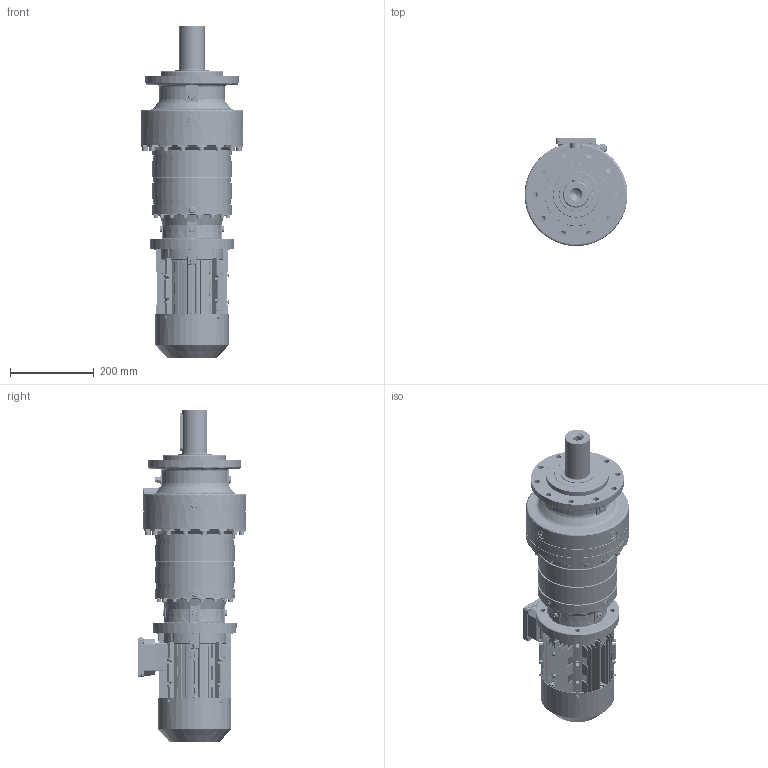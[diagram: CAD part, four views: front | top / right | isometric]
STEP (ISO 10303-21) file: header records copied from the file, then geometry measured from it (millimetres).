
FILE_DESCRIPTION (( 'STEP AP203' ), '1' );
FILE_NAME ('PVL-1504L-MX90S-4.STEP', '2019-05-13T09:36:46', ( '' ), ( '' ), 'SwSTEP 2.0', 'SolidWorks 2012', '' );
FILE_SCHEMA (( 'CONFIG_CONTROL_DESIGN' ));
Products named in the file (33): 1190B5_Varsayìlan; ML13A_Varsayìlan; P15_Varsayìlan; circlips for shaft--type b gb_GB_CONNECTING_PIECE_RINGS_CSB 20_2; IE3 90L cable glandsM16_2; IE3 90S  oil seal_2; cross recessed pan head screws gb_GB_CROSS_SCREWS_TYPE1 M5X10-10  H type-N_2; cross recessed pan head screws gb_GB_CROSS_SCREWS_TYPE1 M5X20-20  H type-N_2; IE3 90S connection board_2; hexagon head bolts-full thread gb_GB_FASTENER_BOLT_STBAB A M4X16-N_2; spring lock washers--normal type gb_GB_FASTENER_WASHER_SW 6_2; hexagon flange head tapping screws gb_GB_SQUARE_AND_HEXAGON_TYPE137 ST3.5X9.5 F-N_2; cross recessed pan head tapping screws gb_GB_CROSS_SCREWS_TYPE128 ST4.2X9.5 H C-N_2; hex nuts, style 1-grades ab gb_GB_FASTENER_NUT_SNAB1 M6-N_2; IE3 90S terminal box_2; IE3 90S terminal box cover_2; plain parallel keys_GB_CONNECTING_PIECE_KEYS_CSK 8X40_2; IE3 90S rotor_2; IE3 90S fan cover_2; deep groove ball bearings gb_Rolling bearings 6205 GB 276-94_2; IE3 90S fan_2; IE3 90S flangeB5; IE3 90S casing_2; PNL_1504L_0_0_A09_B5_ML13A_FL3A_0_0_0_0_0_0_0_0_0_0_0_M1; EK1504L_Varsayìlan; FL3A_Varsayìlan; PVL-1504L-MX90S-4; MX3-90S_B5; cross recessed pan head screws gb_GB_CROSS_SCREWS_TYPE1 M4X6-6  H type-N; hexagon socket head cap screws gb_GB_FASTENER_SCREWS_HSHCS M6X25-N_1; IE3 90S flange_2; hexagon socket head cap screws gb_GB_FASTENER_SCREWS_HSHCS M6X40-N; hexagon socket head cap screws gb_GB_FASTENER_SCREWS_HSHCS M6X30-N_2
Assembly tree (68 placements, depth 3):
  PVL-1504L-MX90S-4
    PNL_1504L_0_0_A09_B5_ML13A_FL3A_0_0_0_0_0_0_0_0_0_0_0_M1
      P15_Varsayìlan
      1190B5_Varsayìlan
      ML13A_Varsayìlan
      EK1504L_Varsayìlan
      FL3A_Varsayìlan
    MX3-90S_B5
      IE3 90S casing_2
      IE3 90S flangeB5
      IE3 90S rotor_2
      deep groove ball bearings gb_Rolling bearings 6205 GB 276-94_2  x2
      IE3 90S fan_2
      IE3 90S fan cover_2
      plain parallel keys_GB_CONNECTING_PIECE_KEYS_CSK 8X40_2
      IE3 90S terminal box_2
      IE3 90S terminal box cover_2
      spring lock washers--normal type gb_GB_FASTENER_WASHER_SW 6_2  x8
      hex nuts, style 1-grades ab gb_GB_FASTENER_NUT_SNAB1 M6-N_2  x7
      cross recessed pan head tapping screws gb_GB_CROSS_SCREWS_TYPE128 ST4.2X9.5 H C-N_2  x4
      hexagon flange head tapping screws gb_GB_SQUARE_AND_HEXAGON_TYPE137 ST3.5X9.5 F-N_2  x4
      IE3 90S connection board_2
      hexagon head bolts-full thread gb_GB_FASTENER_BOLT_STBAB A M4X16-N_2  x6
      cross recessed pan head screws gb_GB_CROSS_SCREWS_TYPE1 M5X20-20  H type-N_2  x2
      cross recessed pan head screws gb_GB_CROSS_SCREWS_TYPE1 M5X10-10  H type-N_2  x4
      IE3 90L cable glandsM16_2  x2
      circlips for shaft--type b gb_GB_CONNECTING_PIECE_RINGS_CSB 20_2
      IE3 90S  oil seal_2
      IE3 90S flange_2
      hexagon socket head cap screws gb_GB_FASTENER_SCREWS_HSHCS M6X40-N  x3
      hexagon socket head cap screws gb_GB_FASTENER_SCREWS_HSHCS M6X25-N_1
      hexagon socket head cap screws gb_GB_FASTENER_SCREWS_HSHCS M6X30-N_2  x4
      cross recessed pan head screws gb_GB_CROSS_SCREWS_TYPE1 M4X6-6  H type-N  x2
Bounding box: 245 x 258 x 790.7 mm (x, y, z)
Volume: 14049796.9 mm3; surface area: 1574536.3 mm2
Topology: 70 solids, 70 shells, 7042 faces, 18310 edges, 11423 vertices
Faces by surface type: plane 2749, cylinder 2081, bspline 1545, cone 542, sphere 81, torus 44
Entity records: 249799 total; most frequent: CARTESIAN_POINT 104528, ORIENTED_EDGE 31834, DIRECTION 26205, EDGE_CURVE 15917, VERTEX_POINT 10036, AXIS2_PLACEMENT_3D 9591, LINE 7023, VECTOR 7023
